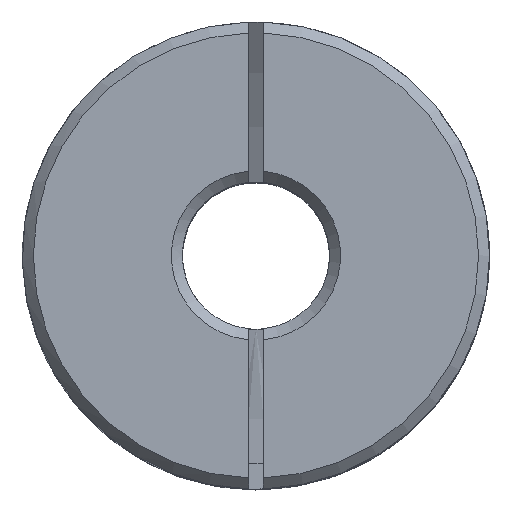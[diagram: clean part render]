
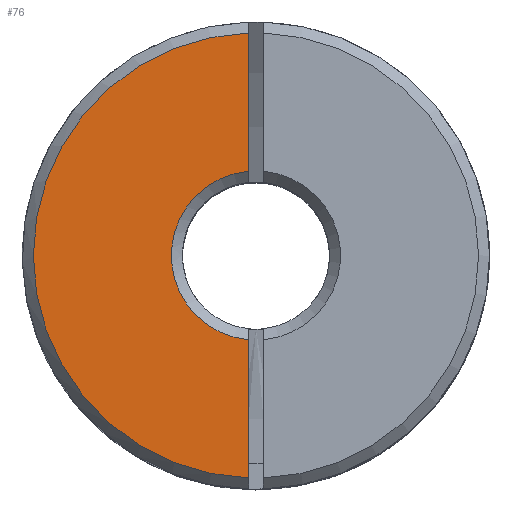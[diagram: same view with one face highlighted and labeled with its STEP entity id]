
A CAD part, top view. The second image highlights one B-rep face of the part: STEP entity #76.
In plain terms, the highlighted planar face has unit normal (0, 0, 1).
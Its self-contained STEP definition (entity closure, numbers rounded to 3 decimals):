
#76 = ADVANCED_FACE( '', ( #141 ), #142, .T. );
#141 = FACE_OUTER_BOUND( '', #289, .T. );
#142 = PLANE( '', #290 );
#289 = EDGE_LOOP( '', ( #469, #470, #471, #472 ) );
#290 = AXIS2_PLACEMENT_3D( '', #473, #474, #475 );
#469 = ORIENTED_EDGE( '', *, *, #894, .T. );
#470 = ORIENTED_EDGE( '', *, *, #895, .T. );
#471 = ORIENTED_EDGE( '', *, *, #896, .T. );
#472 = ORIENTED_EDGE( '', *, *, #897, .T. );
#473 = CARTESIAN_POINT( '', ( -2., 0., 7. ) );
#474 = DIRECTION( '', ( 0., 0., 1. ) );
#475 = DIRECTION( '', ( 1., 0., 0. ) );
#894 = EDGE_CURVE( '', #1062, #1063, #1064, .T. );
#895 = EDGE_CURVE( '', #1063, #1065, #1066, .T. );
#896 = EDGE_CURVE( '', #1065, #1067, #1068, .T. );
#897 = EDGE_CURVE( '', #1067, #1062, #1069, .F. );
#1062 = VERTEX_POINT( '', #1544 );
#1063 = VERTEX_POINT( '', #1545 );
#1064 = LINE( '', #1546, #1547 );
#1065 = VERTEX_POINT( '', #1548 );
#1066 = CIRCLE( '', #1549, 6.05 );
#1067 = VERTEX_POINT( '', #1550 );
#1068 = LINE( '', #1551, #1552 );
#1069 = CIRCLE( '', #1553, 2.3 );
#1544 = CARTESIAN_POINT( '', ( -0.2, 2.291, 7. ) );
#1545 = CARTESIAN_POINT( '', ( -0.2, 6.047, 7. ) );
#1546 = CARTESIAN_POINT( '', ( -0.2, -6.35, 7. ) );
#1547 = VECTOR( '', #1834, 1000. );
#1548 = CARTESIAN_POINT( '', ( -0.2, -6.047, 7. ) );
#1549 = AXIS2_PLACEMENT_3D( '', #1835, #1836, #1837 );
#1550 = CARTESIAN_POINT( '', ( -0.2, -2.291, 7. ) );
#1551 = CARTESIAN_POINT( '', ( -0.2, -6.35, 7. ) );
#1552 = VECTOR( '', #1838, 1000. );
#1553 = AXIS2_PLACEMENT_3D( '', #1839, #1840, #1841 );
#1834 = DIRECTION( '', ( 0., 1., 0. ) );
#1835 = CARTESIAN_POINT( '', ( 0., 0., 7. ) );
#1836 = DIRECTION( '', ( 0., 0., 1. ) );
#1837 = DIRECTION( '', ( 1., 0., 0. ) );
#1838 = DIRECTION( '', ( 0., 1., 0. ) );
#1839 = CARTESIAN_POINT( '', ( 0., 0., 7. ) );
#1840 = DIRECTION( '', ( 0., 0., 1. ) );
#1841 = DIRECTION( '', ( 1., 0., 0. ) );
